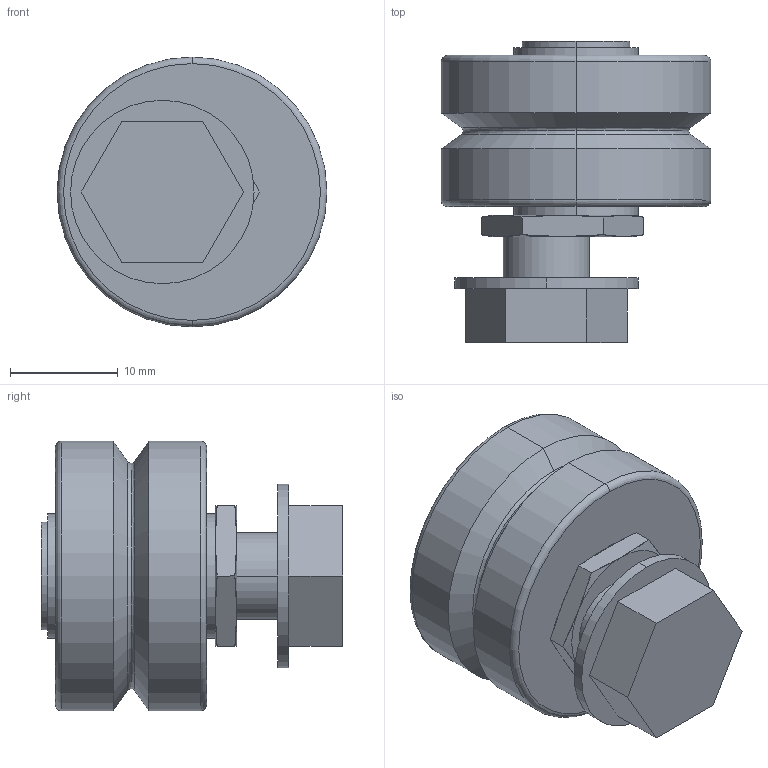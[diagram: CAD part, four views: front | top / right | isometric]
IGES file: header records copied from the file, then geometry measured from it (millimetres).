
Start section: 3D InterOp IGES (Version 21 0 1), Spatial Corp. Copyright (c) 1999-2007.
Global section: file name: RSFJ25DENS.igs; native system: Spatial Corp.; preprocessor: 3D InterOp GENERIC/IGES 3.0; author: Noname; organization: Noname; date: 20220627.163509; units: millimetre
Bounding box: 25 x 27.9 x 25 mm (x, y, z)
Surface area: 5221.7 mm2 (no closed solid volume)
Topology: 0 solids, 0 shells, 74 faces, 314 edges, 312 vertices
Faces by surface type: revolution 44, extrusion 30
